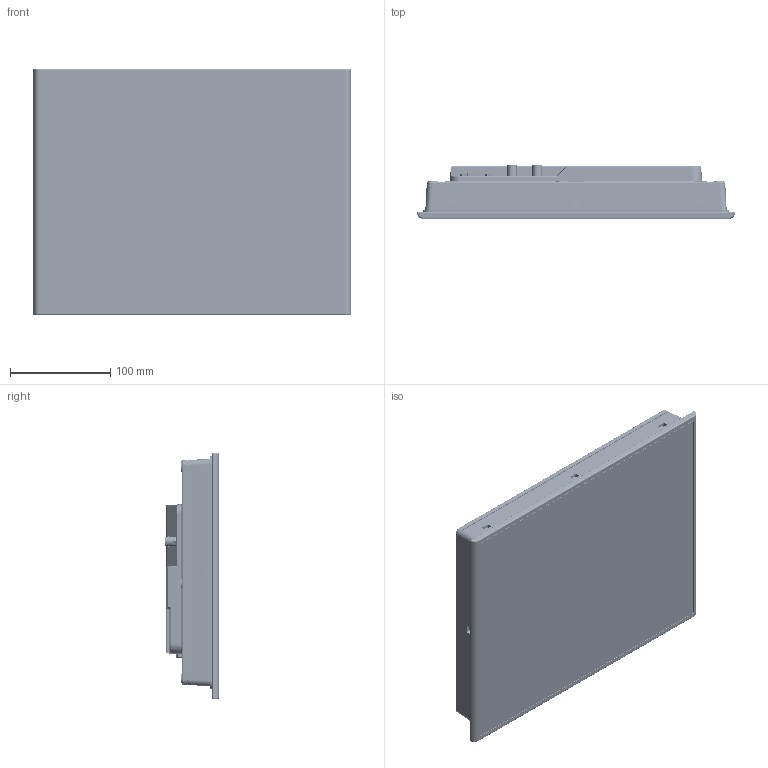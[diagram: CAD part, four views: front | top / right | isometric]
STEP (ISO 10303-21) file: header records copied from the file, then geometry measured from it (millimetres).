
FILE_DESCRIPTION((''),'2;1');
FILE_NAME('DOP-112','2019-04-17T',('YY.CHENG'),(''),'CREO PARAMETRIC BY PTC INC, 2015080','CREO PARAMETRIC BY PTC INC, 2015080','');
FILE_SCHEMA(('CONFIG_CONTROL_DESIGN'));
Products named in the file (1): DOP-112
Bounding box: 317.38 x 53.4 x 246.39 mm (x, y, z)
Volume: 605670 mm3; surface area: 671972.4 mm2
Topology: 1 solids, 42 shells, 10225 faces, 29119 edges, 19155 vertices
Faces by surface type: plane 7364, cylinder 1946, cone 385, bspline 196, torus 195, extrusion 114, sphere 25
Entity records: 356042 total; most frequent: CARTESIAN_POINT 90129, ORIENTED_EDGE 58230, DIRECTION 50692, EDGE_CURVE 29115, VECTOR 22722, LINE 22608, VERTEX_POINT 19156, AXIS2_PLACEMENT_3D 13985
